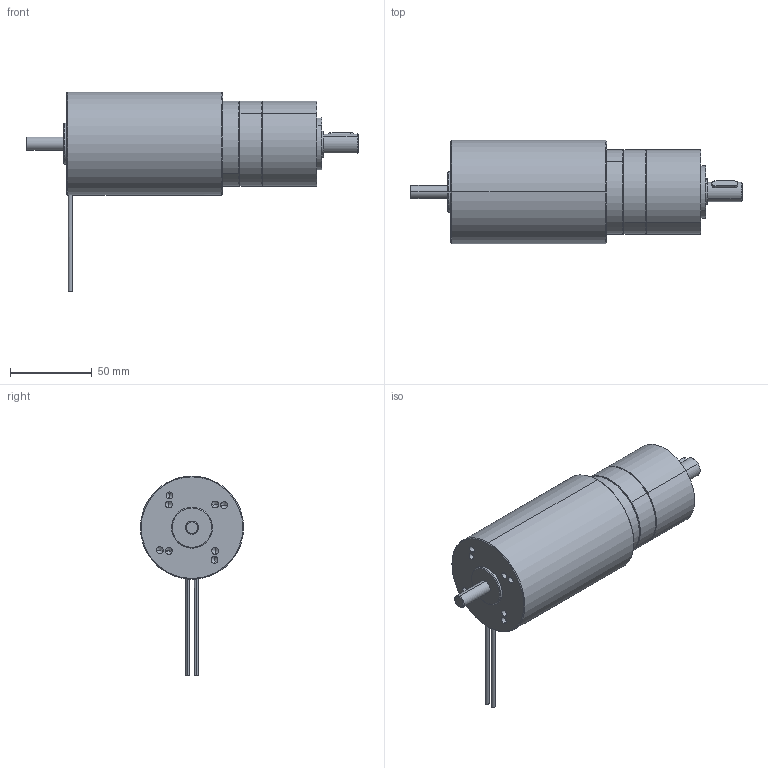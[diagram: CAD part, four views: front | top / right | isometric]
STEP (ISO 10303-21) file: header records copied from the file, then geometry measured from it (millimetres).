
FILE_DESCRIPTION (( 'STEP AP214' ), '1' );
FILE_NAME ('1-17-063-2xx_PM52-1st.STEP', '2020-11-23T11:05:08', ( '' ), ( '' ), 'SwSTEP 2.0', 'SolidWorks 2019', '' );
FILE_SCHEMA (( 'AUTOMOTIVE_DESIGN' ));
Length unit declared in the file: millimetre
Products named in the file (4): 7201574_Part; Motor bulher 1.17.063.202 ; 1-17-063-2xx_PM52-1st; PM52 - 1etage
Assembly tree (3 placements, depth 2):
  1-17-063-2xx_PM52-1st
    Motor bulher 1.17.063.202 
    7201574_Part
    PM52 - 1etage
Bounding box: 202.7 x 63 x 122.05 mm (x, y, z)
Volume: 319514.3 mm3; surface area: 87974.6 mm2
Topology: 2 solids, 41 shells, 854 faces, 2153 edges, 1369 vertices
Faces by surface type: cylinder 416, plane 265, cone 125, bspline 48
Entity records: 28450 total; most frequent: CARTESIAN_POINT 6005, DIRECTION 4692, ORIENTED_EDGE 4170, EDGE_CURVE 2111, AXIS2_PLACEMENT_3D 1824, VERTEX_POINT 1369, VECTOR 1044, LINE 1044
